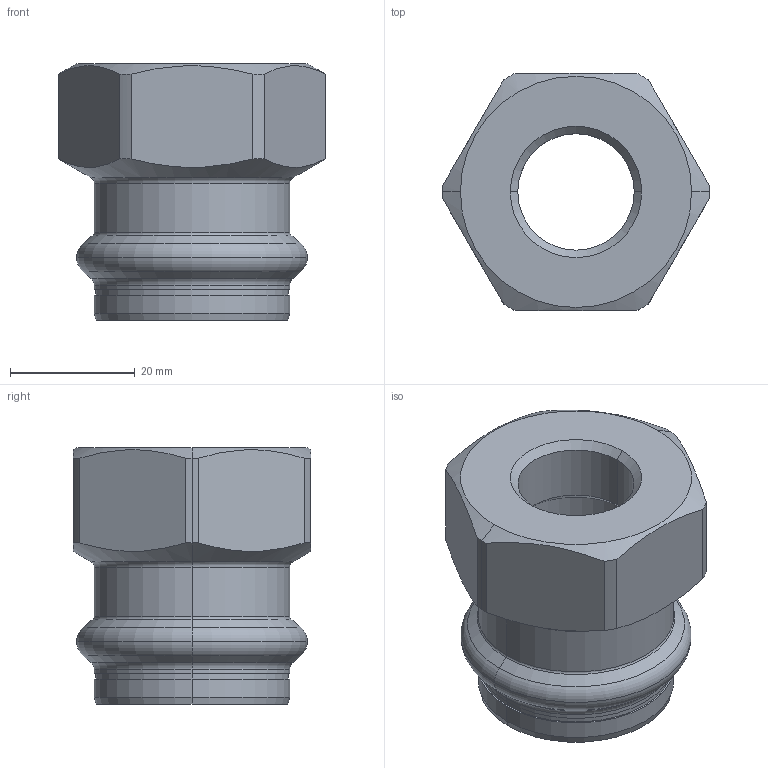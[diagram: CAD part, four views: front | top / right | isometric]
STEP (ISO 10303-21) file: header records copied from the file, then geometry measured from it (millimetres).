
FILE_DESCRIPTION(('CoCreate Modeling STEP Export'),'2;1');
FILE_NAME('8270GVW2812.stp','2013-03-05T11:10:14',(''),(''),'CoCreate Modeling STEP processor for AP214 (Solid Model)','CoCreate Modeling 17.00A 17-Jun-2010 (C) Parametric Technology GmbH','');
FILE_SCHEMA(('AUTOMOTIVE_DESIGN { 1 0 10303 214 1 1 1 1 }'));
Length unit declared in the file: millimetre
Products named in the file (1): 8270GVW2812
Bounding box: 42.7 x 38 x 41 mm (x, y, z)
Volume: 20588.1 mm3; surface area: 9785.8 mm2
Topology: 1 solids, 1 shells, 66 faces, 145 edges, 85 vertices
Faces by surface type: cylinder 26, cone 18, plane 12, torus 10
Entity records: 2379 total; most frequent: CARTESIAN_POINT 1110, ORIENTED_EDGE 290, DIRECTION 212, EDGE_CURVE 145, VERTEX_POINT 85, AXIS2_PLACEMENT_3D 81, EDGE_LOOP 72, FACE_OUTER_BOUND 66
